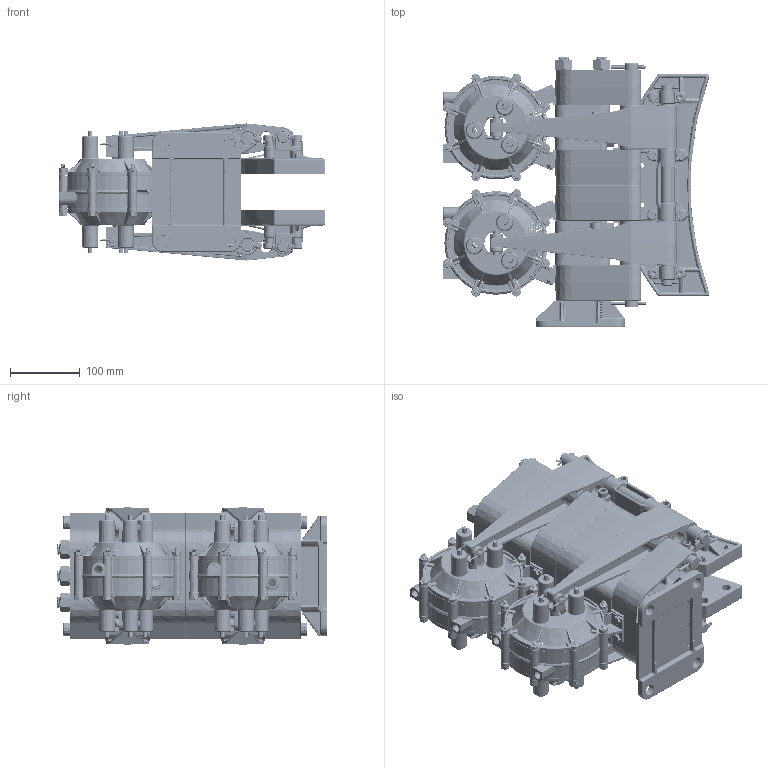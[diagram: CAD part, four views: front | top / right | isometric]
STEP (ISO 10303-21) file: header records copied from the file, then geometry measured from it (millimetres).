
FILE_DESCRIPTION (( 'STEP AP203' ), '1' );
FILE_NAME ('5022-A.STEP', '2016-10-24T17:18:40', ( '' ), ( '' ), 'SwSTEP 2.0', 'SolidWorks 2015', '' );
FILE_SCHEMA (( 'CONFIG_CONTROL_DESIGN' ));
Products named in the file (1): 5022-A
Bounding box: 381.97 x 387.35 x 196.31 mm (x, y, z)
Surface area: 1242270 mm2 (no closed solid volume)
Topology: 0 solids, 244 shells, 5517 faces, 16834 edges, 10889 vertices
Faces by surface type: plane 1536, cylinder 1478, bspline 957, cone 783, torus 719, sphere 44
Full cylindrical faces by diameter (mm): 3.175 x2, 3.572 x2, 4.775 x20, 5.159 x4, 6.35 x93, 6.528 x4, 7.938 x2, 9.525 x4, 11.887 x4, 11.913 x8, 12.7 x4, 12.903 x24, 13.492 x3, 14.288 x8, 15.875 x152, 16.002 x1, 19.05 x2
Entity records: 292272 total; most frequent: CARTESIAN_POINT 164125, DIRECTION 25312, ORIENTED_EDGE 24921, EDGE_CURVE 15617, VERTEX_POINT 10301, AXIS2_PLACEMENT_3D 10235, EDGE_LOOP 6221, CIRCLE 5892
